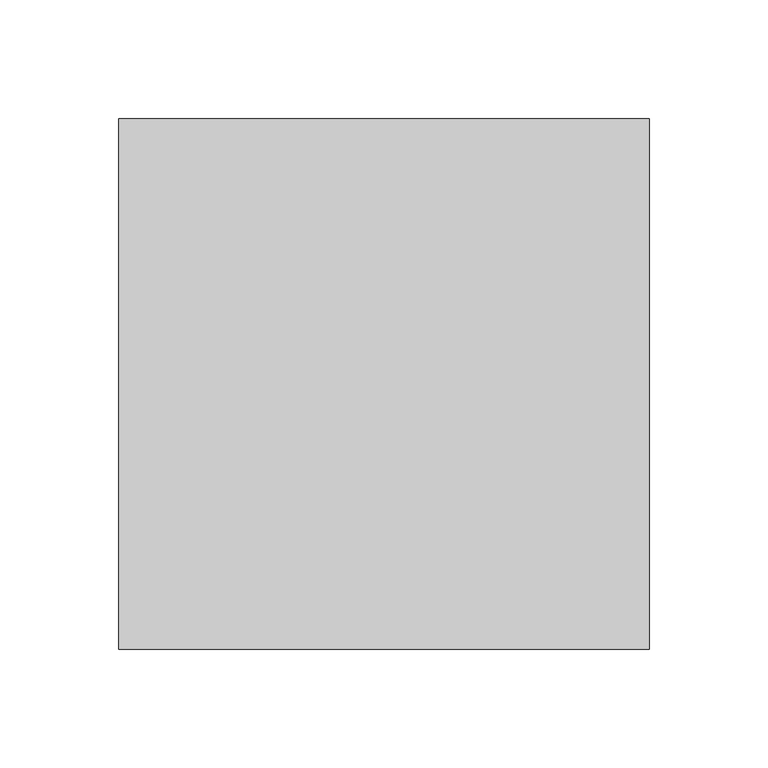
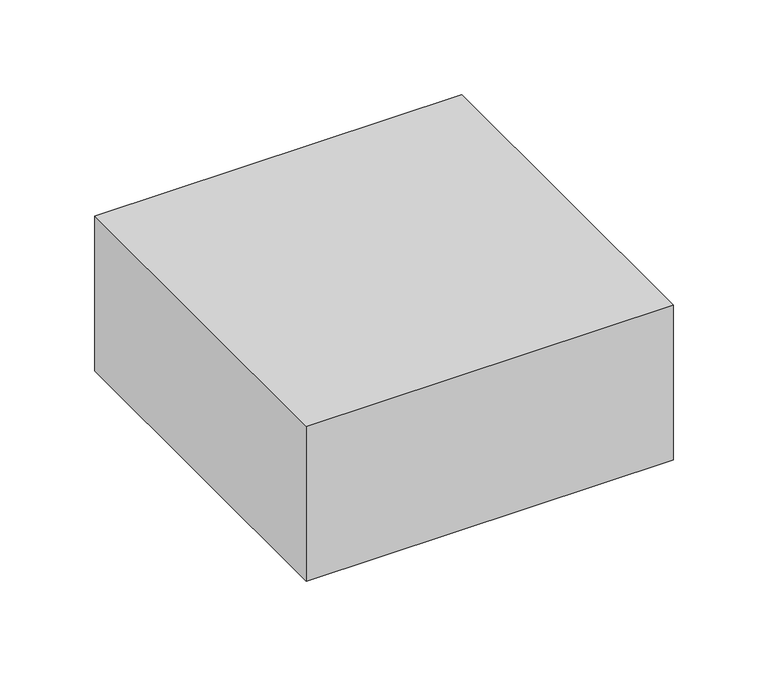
"""IFC4 building model written with IfcOpenShell, lengths in millimetres: alarm geometry, Branddörr IR frånkopplas : Branddörr IR frånkopplas."""

from ifc_helpers import new_model, si_unit, frame, origin, place, context, project, spatial, polyline, outline, extrude, source, transform, mapped, element, save


def alarm_f33bc343(model_context):
    return source(origin(), model_context, "Body", "SweptSolid", [
        extrude(outline(polyline([(112.0750626, 112.0073303), (112.0750626, -111.5662175), (-111.4984851, -111.5662175), (-111.4984851, 112.0073303), (112.0750626, 112.0073303)])), frame((0.0, 0.0, 1100.0), z_axis=(0.0, 0.0, 1.0), x_axis=(1.0, 0.0, 0.0)), (0.0, 0.0, 1.0), 100.0),
    ])


if __name__ == "__main__":
    model = new_model("IFC4")
    model_context = context("Model", 3, world=origin())
    ifc_project = project(units=[si_unit("LENGTHUNIT", "METRE", prefix="MILLI")], contexts=[model_context])
    site = spatial("IfcSite", under=ifc_project)
    building = spatial("IfcBuilding", under=site)
    placement = place(None, origin())
    alarm_shape = alarm_f33bc343(model_context)
    element("IfcAlarm", 1, ObjectType="Branddörr IR frånkopplas : Branddörr IR frånkopplas", at=placement, inside=building, context=model_context, shape_type="MappedRepresentation", body=[
        mapped(alarm_shape, transform((0.0, 0.0, 0.0), x_axis=(1.0, 0.0, 0.0), y_axis=(0.0, 1.0, 0.0), z_axis=(0.0, 0.0, 1.0))),
    ])
    save(model, "model.ifc")
